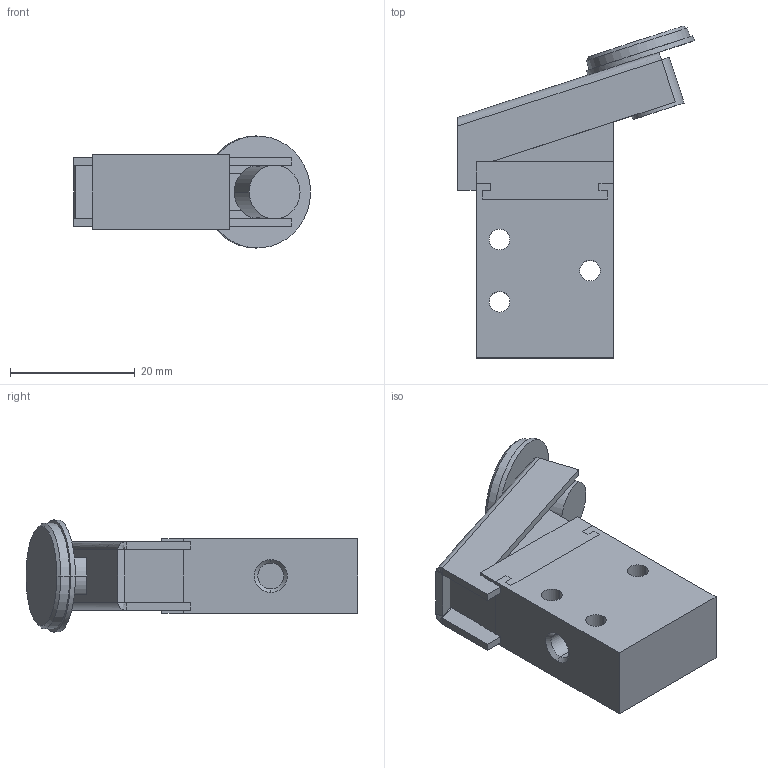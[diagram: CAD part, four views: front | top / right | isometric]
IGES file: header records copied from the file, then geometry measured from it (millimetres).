
Global section: file name: No Iges File Name specified; native system: AutoDesk Inventor R12.0; preprocessor: AutoDesk Inventor Iges Exporter R12.0; date: 20080225.141137; units: millimetre
Bounding box: 38.05 x 53.28 x 18 mm (x, y, z)
Volume: 11237.9 mm3; surface area: 7185.3 mm2
Topology: 3 solids, 3 shells, 109 faces, 280 edges, 174 vertices
Faces by surface type: plane 55, bspline 27, cylinder 15, revolution 10, cone 2
